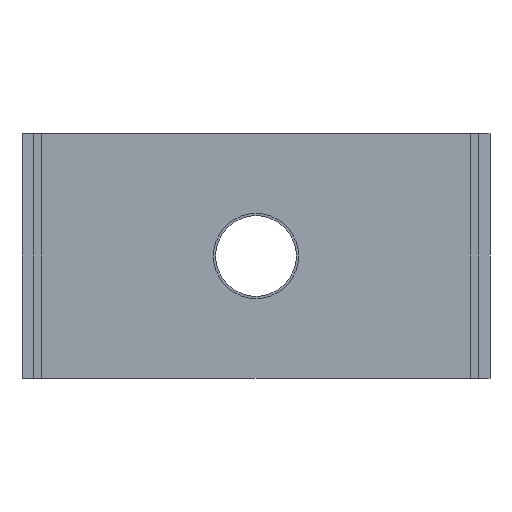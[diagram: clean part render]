
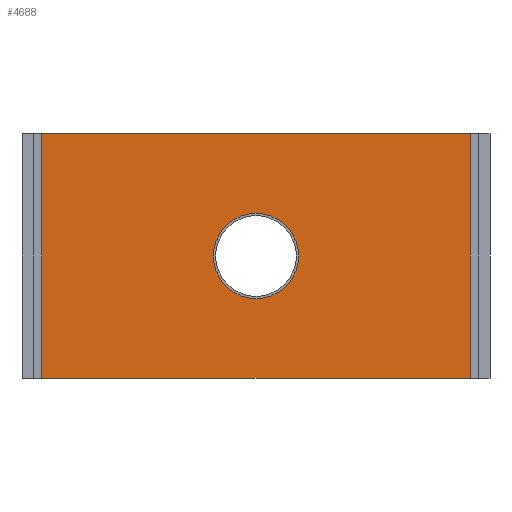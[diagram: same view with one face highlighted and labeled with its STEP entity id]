
A CAD part, front view. The second image highlights one B-rep face of the part: STEP entity #4688.
In plain terms, the highlighted planar face has unit normal (0, -1, 0).
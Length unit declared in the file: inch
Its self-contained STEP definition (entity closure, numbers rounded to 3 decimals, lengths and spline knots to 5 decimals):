
#4010=CARTESIAN_POINT('',(-15.09843,-3.85871,8.60236));
#4011=VERTEX_POINT('',#4010);
#4018=CARTESIAN_POINT('',(15.09843,-3.85871,8.60236));
#4019=VERTEX_POINT('',#4018);
#4020=CARTESIAN_POINT('',(15.09843,-3.85871,8.60236));
#4021=DIRECTION('',(-1.0,0.0,0.0));
#4022=VECTOR('',#4021,30.19685);
#4023=LINE('',#4020,#4022);
#4024=EDGE_CURVE('',#4019,#4011,#4023,.T.);
#4182=CARTESIAN_POINT('',(-3.,-3.85871,0.));
#4183=VERTEX_POINT('',#4182);
#4184=CARTESIAN_POINT('',(0.0,-3.85871,0.0));
#4185=DIRECTION('',(0.0,1.0,0.0));
#4186=DIRECTION('',(1.0,0.0,0.0));
#4187=AXIS2_PLACEMENT_3D('',#4184,#4185,#4186);
#4188=CIRCLE('',#4187,3.);
#4189=EDGE_CURVE('',#4183,#4183,#4188,.T.);
#4644=CARTESIAN_POINT('',(15.09843,-3.85871,-8.60236));
#4645=VERTEX_POINT('',#4644);
#4646=CARTESIAN_POINT('',(15.09843,-3.85871,-8.60236));
#4647=DIRECTION('',(0.0,0.0,1.0));
#4648=VECTOR('',#4647,17.20472);
#4649=LINE('',#4646,#4648);
#4650=EDGE_CURVE('',#4645,#4019,#4649,.T.);
#4662=CARTESIAN_POINT('',(15.09843,-3.85871,0.0));
#4663=DIRECTION('',(0.0,-1.0,0.0));
#4664=DIRECTION('',(0.0,0.0,-1.0));
#4665=AXIS2_PLACEMENT_3D('',#4662,#4663,#4664);
#4666=PLANE('',#4665);
#4667=ORIENTED_EDGE('',*,*,#4024,.T.);
#4668=CARTESIAN_POINT('',(-15.09843,-3.85871,-8.60236));
#4669=VERTEX_POINT('',#4668);
#4670=CARTESIAN_POINT('',(-15.09843,-3.85871,-8.60236));
#4671=DIRECTION('',(0.0,0.0,1.0));
#4672=VECTOR('',#4671,17.20472);
#4673=LINE('',#4670,#4672);
#4674=EDGE_CURVE('',#4669,#4011,#4673,.T.);
#4675=ORIENTED_EDGE('',*,*,#4674,.F.);
#4676=CARTESIAN_POINT('',(-15.09843,-3.85871,-8.60236));
#4677=DIRECTION('',(1.0,0.0,0.0));
#4678=VECTOR('',#4677,30.19685);
#4679=LINE('',#4676,#4678);
#4680=EDGE_CURVE('',#4669,#4645,#4679,.T.);
#4681=ORIENTED_EDGE('',*,*,#4680,.T.);
#4682=ORIENTED_EDGE('',*,*,#4650,.T.);
#4683=EDGE_LOOP('',(#4667,#4675,#4681,#4682));
#4684=FACE_OUTER_BOUND('',#4683,.T.);
#4685=ORIENTED_EDGE('',*,*,#4189,.T.);
#4686=EDGE_LOOP('',(#4685));
#4687=FACE_BOUND('',#4686,.T.);
#4688=ADVANCED_FACE('',(#4684,#4687),#4666,.T.);
